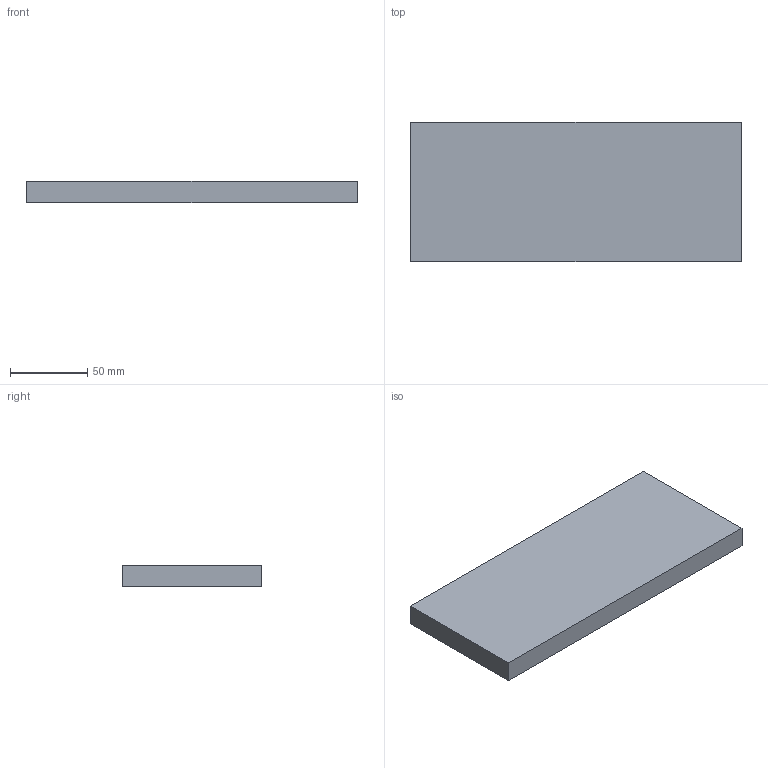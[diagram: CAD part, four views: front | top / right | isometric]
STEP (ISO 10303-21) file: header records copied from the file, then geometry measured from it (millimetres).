
FILE_DESCRIPTION(('Open CASCADE Model'),'2;1');
FILE_NAME('Open CASCADE Shape Model','2026-10-04T02:31:39',('Author'),( 'Open CASCADE'),'Open CASCADE STEP processor 8.0','Open CASCADE 8.0' ,'Unknown');
FILE_SCHEMA(('AUTOMOTIVE_DESIGN { 1 0 10303 214 1 1 1 1 }'));
Length unit declared in the file: millimetre
Products named in the file (1): Open CASCADE STEP translator 8.0 191
Bounding box: 213 x 90 x 14 mm (x, y, z)
Volume: 268380 mm3; surface area: 46824 mm2
Topology: 1 solids, 1 shells, 6 faces, 12 edges, 8 vertices
Faces by surface type: plane 6
Entity records: 322 total; most frequent: CARTESIAN_POINT 51, DIRECTION 50, LINE 36, VECTOR 36, ORIENTED_EDGE 24, PCURVE 24, DEFINITIONAL_REPRESENTATION 24, EDGE_CURVE 12
